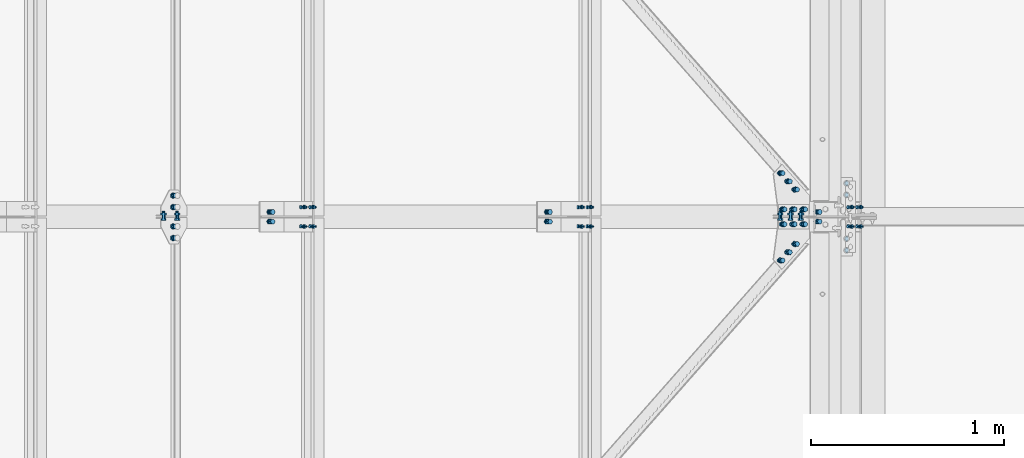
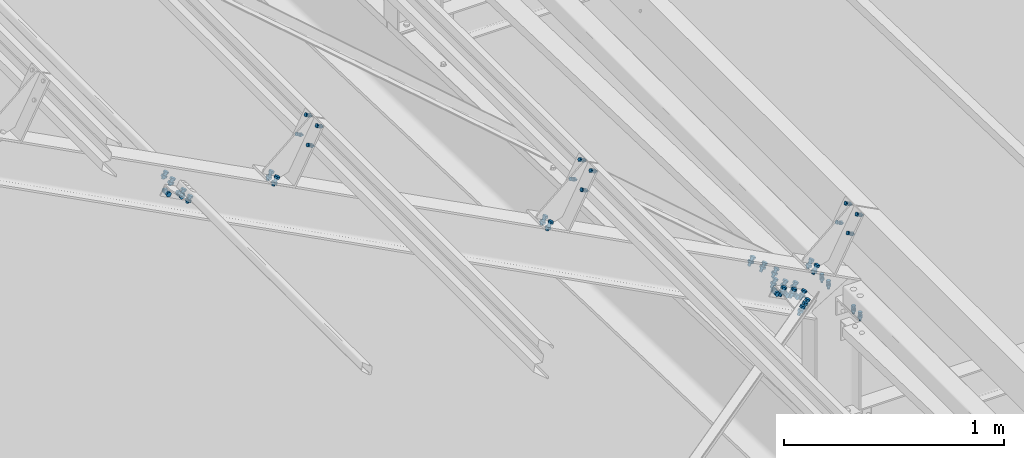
# One storey, part 169 of 362: 19 mechanical fasteners.
"""IFC2X3 building model written with IfcOpenShell, lengths in millimetres."""

from ifc_helpers import new_model, si_unit, frame, frame_2d, origin_with_axes, origin_2d_with_axis, place, context, subcontext, project, spatial, polyline, circle_curve, parameter, trimmed, segment, composite_curve, circle, outline, extrude, source, transform, mapped, material, type_object, element, save


model = new_model("IFC2X3")

# Units and contexts
model_context = context("Model", 3, precision=1e-05, world=origin_with_axes())
body_context = subcontext(model_context, "Body", "Model", "MODEL_VIEW")
ifc_project = project(units=[si_unit("LENGTHUNIT", "METRE", prefix="MILLI"), si_unit("AREAUNIT", "SQUARE_METRE"), si_unit("VOLUMEUNIT", "CUBIC_METRE"), si_unit("MASSUNIT", "GRAM", prefix="KILO"), si_unit("TIMEUNIT", "SECOND"), si_unit("PLANEANGLEUNIT", "RADIAN"), si_unit("SOLIDANGLEUNIT", "STERADIAN"), si_unit("THERMODYNAMICTEMPERATUREUNIT", "DEGREE_CELSIUS"), si_unit("LUMINOUSINTENSITYUNIT", "LUMEN")], contexts=[model_context])

# Site, building, storey
site_placement = place(None, origin_with_axes())
site = spatial("IfcSite", under=ifc_project, at=site_placement, Name="Undefined", CompositionType="ELEMENT")
building_placement = place(site_placement, origin_with_axes())
building = spatial("IfcBuilding", under=site, at=building_placement, Name="Undefined", CompositionType="ELEMENT")
storey_placement = place(building_placement, origin_with_axes())
storey = spatial("IfcBuildingStorey", under=building, at=storey_placement, Name="Undefined", CompositionType="ELEMENT", Elevation=0.0)

# Mechanical fasteners
ifc_material_1 = material(Name="8.8-SB-ZINGUE")
mechanical_fastener_type = type_object("IfcMechanicalFastenerType", Name="Bolt assembly")
shared_shape_1 = source(origin_with_axes(), body_context, "Body", "SweptSolid", [
    extrude(circle(Radius=7.0, at=origin_2d_with_axis()), frame((0.0, -0.100011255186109, 0.0), z_axis=(0.0, 1.0, 0.0), x_axis=(1.0, 0.0, 0.0)), (0.0, 0.0, 1.0), 3.1),
    extrude(circle(Radius=7.0, at=origin_2d_with_axis()), frame((0.0, -9.9, 0.0), z_axis=(0.0, 1.0, 0.0), x_axis=(1.0, 0.0, 0.0)), (0.0, 0.0, 1.0), 10.0),
    extrude(outline(polyline([(10.39230484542, 0.0), (5.19615242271, 9.00000000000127), (-5.19615242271, 9.00000000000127), (-10.39230484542, 0.0), (-5.19615242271, -9.00000000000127), (5.19615242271, -9.00000000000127), (10.39230484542, 0.0)])), frame((0.0, -17.92, 0.0), z_axis=(0.0, 1.0, 0.0), x_axis=(1.0, 0.0, 0.0)), (0.0, 0.0, 1.0), 7.92),
    extrude(circle(Radius=6.0, at=origin_2d_with_axis()), frame((0.0, -10.0000010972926, 0.0), z_axis=(0.0, 1.0, 0.0), x_axis=(1.0, 0.0, 0.0)), (0.0, 0.0, 1.0), 30.0),
    extrude(outline(polyline([(11.5008173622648, 0.0), (5.7504086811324, 9.96000000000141), (-5.7504086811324, 9.96000000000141), (-11.5008173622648, 0.0), (-5.7504086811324, -9.96000000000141), (5.7504086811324, -9.96000000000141), (11.5008173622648, 0.0)])), frame((0.0, 3.00000067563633, 0.0), z_axis=(0.0, 1.0, 0.0), x_axis=(1.0, 0.0, 0.0)), (0.0, 0.0, 1.0), 7.92),
])
mechanical_fastener_1_placement = place(storey_placement, frame((19620.3252333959, 7649.9999403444, 8812.98460901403), z_axis=(0.0, 1.0, 0.0), x_axis=(0.463528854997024, 6.99999093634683e-09, 0.886081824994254)))
element("IfcMechanicalFastener", 1, at=mechanical_fastener_1_placement, inside=storey, type_object=mechanical_fastener_type, material=ifc_material_1, Name="Bolt assembly", NominalDiameter=12.0, NominalLength=30.0, context=body_context, shape_type="MappedRepresentation", body=[
    mapped(shared_shape_1, transform((0.0, 0.0, 0.0))),
    mapped(shared_shape_1, transform((99.9999999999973, -1.63709046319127e-11, 7.73070496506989e-12))),
])
shared_shape_2 = source(origin_with_axes(), body_context, "Body", "SweptSolid", [
    extrude(circle(Radius=7.0, at=origin_2d_with_axis()), frame((0.0, -0.10007666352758, 0.0), z_axis=(0.0, 1.0, 0.0), x_axis=(1.0, 0.0, 0.0)), (0.0, 0.0, 1.0), 3.1),
    extrude(circle(Radius=7.0, at=origin_2d_with_axis()), frame((0.0, -9.9, 0.0), z_axis=(0.0, 1.0, 0.0), x_axis=(1.0, 0.0, 0.0)), (0.0, 0.0, 1.0), 10.0),
    extrude(outline(polyline([(10.39230484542, 0.0), (5.19615242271, 9.00000000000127), (-5.19615242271, 9.00000000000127), (-10.39230484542, 0.0), (-5.19615242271, -9.00000000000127), (5.19615242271, -9.00000000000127), (10.39230484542, 0.0)])), frame((0.0, -17.92, 0.0), z_axis=(0.0, 1.0, 0.0), x_axis=(1.0, 0.0, 0.0)), (0.0, 0.0, 1.0), 7.92),
    extrude(circle(Radius=6.0, at=origin_2d_with_axis()), frame((0.0, -10.0000010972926, 0.0), z_axis=(0.0, 1.0, 0.0), x_axis=(1.0, 0.0, 0.0)), (0.0, 0.0, 1.0), 30.0),
    extrude(outline(polyline([(11.5008173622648, 0.0), (5.7504086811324, 9.96000000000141), (-5.7504086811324, 9.96000000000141), (-11.5008173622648, 0.0), (-5.7504086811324, -9.96000000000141), (5.7504086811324, -9.96000000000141), (11.5008173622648, 0.0)])), frame((0.0, 3.00000067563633, 0.0), z_axis=(0.0, 1.0, 0.0), x_axis=(1.0, 0.0, 0.0)), (0.0, 0.0, 1.0), 7.92),
])
mechanical_fastener_2_placement = place(storey_placement, frame((19620.3252333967, 7550.0000596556, 8812.98460901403), z_axis=(0.0, 1.0, 0.0), x_axis=(0.463528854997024, 6.99999093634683e-09, 0.886081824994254)))
element("IfcMechanicalFastener", 2, at=mechanical_fastener_2_placement, inside=storey, type_object=mechanical_fastener_type, material=ifc_material_1, Name="Bolt assembly", NominalDiameter=12.0, NominalLength=30.0, context=body_context, shape_type="MappedRepresentation", body=[
    mapped(shared_shape_2, transform((0.0, 0.0, 0.0))),
    mapped(shared_shape_2, transform((99.9999999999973, -1.63709046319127e-11, 7.73070496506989e-12))),
])
ifc_material_2 = material(Name="#_SB-8.8-ZINGUE")
shared_shape_3 = source(origin_with_axes(), body_context, "Body", "SweptSolid", [
    extrude(circle(Radius=9.0, at=origin_2d_with_axis()), frame((0.0, -5.8999542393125, 0.0), z_axis=(0.0, 1.0, 0.0), x_axis=(1.0, 0.0, 0.0)), (0.0, 0.0, 1.0), 6.0),
    extrude(circle(Radius=9.0, at=origin_2d_with_axis()), frame((0.0, -0.100011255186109, 0.0), z_axis=(0.0, 1.0, 0.0), x_axis=(1.0, 0.0, 0.0)), (0.0, 0.0, 1.0), 6.1),
    extrude(outline(polyline([(13.85640646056, 0.0), (6.92820323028, 12.0000000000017), (-6.92820323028, 12.0000000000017), (-13.85640646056, 0.0), (-6.92820323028, -12.0000000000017), (6.92820323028, -12.0000000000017), (13.85640646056, 0.0)])), frame((0.0, -16.5599735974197, 0.0), z_axis=(0.0, 1.0, 0.0), x_axis=(1.0, 0.0, 0.0)), (0.0, 0.0, 1.0), 10.56),
    extrude(circle(Radius=8.0, at=origin_2d_with_axis()), frame((0.0, -5.9999542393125, 0.0), z_axis=(0.0, 1.0, 0.0), x_axis=(1.0, 0.0, 0.0)), (0.0, 0.0, 1.0), 40.0),
    extrude(outline(polyline([(15.3344231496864, 0.0), (7.6672115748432, 13.2800000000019), (-7.6672115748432, 13.2800000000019), (-15.3344231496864, 0.0), (-7.6672115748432, -13.2800000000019), (7.6672115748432, -13.2800000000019), (15.3344231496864, 0.0)])), frame((0.0, 6.0, 0.0), z_axis=(0.0, 1.0, 0.0), x_axis=(1.0, 0.0, 0.0)), (0.0, 0.0, 1.0), 10.56),
])
for number, where, z_axis, x_axis, name in (
    (3, (19337.2313438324, 7740.99059110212, 8588.65078875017), (-0.628485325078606, -0.704921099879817, 0.32877414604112), (-0.624617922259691, 0.70928572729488, 0.326750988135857), "Bolt assembly"),
    (4, (19337.2315168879, 7459.00960462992, 8588.65070043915), (0.628485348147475, -0.704921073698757, -0.328774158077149), (-0.624617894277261, -0.709285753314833, 0.326750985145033), "Bolt assembly"),
):
    element("IfcMechanicalFastener", number, at=place(storey_placement, frame(where, z_axis=z_axis, x_axis=x_axis)), inside=storey, type_object=mechanical_fastener_type, material=ifc_material_2, Name=name, NominalDiameter=16.0, NominalLength=40.0, context=body_context, shape_type="MappedRepresentation", body=[
        mapped(shared_shape_3, transform((0.0, 0.0, 0.0))),
        mapped(shared_shape_3, transform((60.0, 0.0, 0.0))),
        mapped(shared_shape_3, transform((120.0, 0.0, 0.0))),
    ])
shared_shape_4 = source(origin_with_axes(), body_context, "Body", "SweptSolid", [
    extrude(circle(Radius=9.0, at=origin_2d_with_axis()), frame((0.0, 0.1, 0.0), z_axis=(0.0, 1.0, 0.0), x_axis=(1.0, 0.0, 0.0)), (0.0, 0.0, 1.0), 6.0),
    extrude(circle(Radius=9.0, at=origin_2d_with_axis()), frame((0.0, 5.90002706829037, 0.0), z_axis=(0.0, 1.0, 0.0), x_axis=(1.0, 0.0, 0.0)), (0.0, 0.0, 1.0), 6.1),
    extrude(outline(polyline([(13.85640646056, 0.0), (6.92820323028, 12.0000000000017), (-6.92820323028, 12.0000000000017), (-13.85640646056, 0.0), (-6.92820323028, -12.0000000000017), (6.92820323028, -12.0000000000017), (13.85640646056, 0.0)])), frame((0.0, -10.5600019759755, 0.0), z_axis=(0.0, 1.0, 0.0), x_axis=(1.0, 0.0, 0.0)), (0.0, 0.0, 1.0), 10.56),
    extrude(circle(Radius=8.0, at=origin_2d_with_axis()), frame((0.0, 0.0, 0.0), z_axis=(0.0, 1.0, 0.0), x_axis=(1.0, 0.0, 0.0)), (0.0, 0.0, 1.0), 40.0),
    extrude(outline(polyline([(15.3344231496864, 0.0), (7.6672115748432, 13.2800000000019), (-7.6672115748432, 13.2800000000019), (-15.3344231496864, 0.0), (-7.6672115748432, -13.2800000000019), (7.6672115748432, -13.2800000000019), (15.3344231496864, 0.0)])), frame((0.0, 12.0000270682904, 0.0), z_axis=(0.0, 1.0, 0.0), x_axis=(1.0, 0.0, 0.0)), (0.0, 0.0, 1.0), 10.56),
])
for number, where, z_axis, x_axis, name in (
    (5, (19328.4795202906, 7561.50029877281, 8593.22905686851), (-0.886082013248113, 9.38091927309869e-07, 0.463528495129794), (8.27999962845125e-07, 0.99999999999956, -4.4099997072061e-07), "Bolt assembly"),
    (6, (19328.479519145, 7638.49989992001, 8593.2290568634), (0.886082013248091, 9.63788348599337e-07, -0.463528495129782), (8.56999987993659e-07, -0.999999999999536, -4.41000016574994e-07), "Bolt assembly"),
):
    element("IfcMechanicalFastener", number, at=place(storey_placement, frame(where, z_axis=z_axis, x_axis=x_axis)), inside=storey, type_object=mechanical_fastener_type, material=ifc_material_2, Name=name, NominalDiameter=16.0, NominalLength=40.0, context=body_context, shape_type="MappedRepresentation", body=[
        mapped(shared_shape_4, transform((0.0, 0.0, -60.0))),
        mapped(shared_shape_4, transform((0.0, 0.0, 0.0))),
        mapped(shared_shape_4, transform((0.0, 0.0, 60.0))),
    ])
shared_shape_5 = source(origin_with_axes(), body_context, "Body", "SweptSolid", [
    extrude(circle(Radius=7.0, at=origin_2d_with_axis()), frame((0.0, -0.100011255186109, 0.0), z_axis=(0.0, 1.0, 0.0), x_axis=(1.0, 0.0, 0.0)), (0.0, 0.0, 1.0), 1.6),
    extrude(circle(Radius=7.0, at=origin_2d_with_axis()), frame((0.0, -9.9, 0.0), z_axis=(0.0, 1.0, 0.0), x_axis=(1.0, 0.0, 0.0)), (0.0, 0.0, 1.0), 10.0),
    extrude(outline(polyline([(10.39230484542, 0.0), (5.19615242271, 9.00000000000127), (-5.19615242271, 9.00000000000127), (-10.39230484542, 0.0), (-5.19615242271, -9.00000000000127), (5.19615242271, -9.00000000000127), (10.39230484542, 0.0)])), frame((0.0, -17.92, 0.0), z_axis=(0.0, 1.0, 0.0), x_axis=(1.0, 0.0, 0.0)), (0.0, 0.0, 1.0), 7.92),
    extrude(circle(Radius=6.0, at=origin_2d_with_axis()), frame((0.0, -10.0000010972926, 0.0), z_axis=(0.0, 1.0, 0.0), x_axis=(1.0, 0.0, 0.0)), (0.0, 0.0, 1.0), 30.0),
    extrude(outline(polyline([(11.5008173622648, 0.0), (5.7504086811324, 9.96000000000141), (-5.7504086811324, 9.96000000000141), (-11.5008173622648, 0.0), (-5.7504086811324, -9.96000000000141), (5.7504086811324, -9.96000000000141), (11.5008173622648, 0.0)])), frame((0.0, 1.50001896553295, 0.0), z_axis=(0.0, 1.0, 0.0), x_axis=(1.0, 0.0, 0.0)), (0.0, 0.0, 1.0), 7.92),
])
for number, where, z_axis, x_axis, name in (
    (7, (16785.1352902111, 7649.9999403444, 10295.0043403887), (0.0, 1.0, 0.0), (0.463528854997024, 6.99999093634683e-09, 0.886081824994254), "Bolt assembly"),
    (8, (18222.4353554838, 7649.9999403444, 9543.12203833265), (0.0, 1.0, 0.0), (0.463528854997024, 6.99999093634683e-09, 0.886081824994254), "Bolt assembly"),
):
    element("IfcMechanicalFastener", number, at=place(storey_placement, frame(where, z_axis=z_axis, x_axis=x_axis)), inside=storey, type_object=mechanical_fastener_type, material=ifc_material_1, Name=name, NominalDiameter=12.0, NominalLength=30.0, context=body_context, shape_type="MappedRepresentation", body=[
        mapped(shared_shape_5, transform((0.0, 0.0, 0.0))),
        mapped(shared_shape_5, transform((102.00000000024, -2.51020537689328e-10, 0.0))),
    ])
shared_shape_6 = source(origin_with_axes(), body_context, "Body", "SweptSolid", [
    extrude(circle(Radius=7.0, at=origin_2d_with_axis()), frame((0.0, -0.10007666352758, 0.0), z_axis=(0.0, 1.0, 0.0), x_axis=(1.0, 0.0, 0.0)), (0.0, 0.0, 1.0), 1.6),
    extrude(circle(Radius=7.0, at=origin_2d_with_axis()), frame((0.0, -9.9, 0.0), z_axis=(0.0, 1.0, 0.0), x_axis=(1.0, 0.0, 0.0)), (0.0, 0.0, 1.0), 10.0),
    extrude(outline(polyline([(10.39230484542, 0.0), (5.19615242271, 9.00000000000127), (-5.19615242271, 9.00000000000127), (-10.39230484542, 0.0), (-5.19615242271, -9.00000000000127), (5.19615242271, -9.00000000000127), (10.39230484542, 0.0)])), frame((0.0, -17.92, 0.0), z_axis=(0.0, 1.0, 0.0), x_axis=(1.0, 0.0, 0.0)), (0.0, 0.0, 1.0), 7.92),
    extrude(circle(Radius=6.0, at=origin_2d_with_axis()), frame((0.0, -10.0000010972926, 0.0), z_axis=(0.0, 1.0, 0.0), x_axis=(1.0, 0.0, 0.0)), (0.0, 0.0, 1.0), 30.0),
    extrude(outline(polyline([(11.5008173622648, 0.0), (5.7504086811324, 9.96000000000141), (-5.7504086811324, 9.96000000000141), (-11.5008173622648, 0.0), (-5.7504086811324, -9.96000000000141), (5.7504086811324, -9.96000000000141), (11.5008173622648, 0.0)])), frame((0.0, 1.50001896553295, 0.0), z_axis=(0.0, 1.0, 0.0), x_axis=(1.0, 0.0, 0.0)), (0.0, 0.0, 1.0), 7.92),
])
for number, where, z_axis, x_axis, name in (
    (9, (16785.1352902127, 7550.0000596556, 10295.0043403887), (0.0, 1.0, 0.0), (0.463528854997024, 6.99999093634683e-09, 0.886081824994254), "Bolt assembly"),
    (10, (18222.4353554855, 7550.0000596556, 9543.12203833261), (0.0, 1.0, 0.0), (0.463528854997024, 6.99999093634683e-09, 0.886081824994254), "Bolt assembly"),
):
    element("IfcMechanicalFastener", number, at=place(storey_placement, frame(where, z_axis=z_axis, x_axis=x_axis)), inside=storey, type_object=mechanical_fastener_type, material=ifc_material_1, Name=name, NominalDiameter=12.0, NominalLength=30.0, context=body_context, shape_type="MappedRepresentation", body=[
        mapped(shared_shape_6, transform((0.0, 0.0, 0.0))),
        mapped(shared_shape_6, transform((102.00000000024, -2.51020537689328e-10, 0.0))),
    ])
shared_shape_7 = source(origin_with_axes(), body_context, "Body", "SweptSolid", [
    extrude(circle(Radius=9.0, at=origin_2d_with_axis()), frame((0.0, -0.0999426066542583, 0.0), z_axis=(0.0, 1.0, 0.0), x_axis=(1.0, 0.0, 0.0)), (0.0, 0.0, 1.0), 9.9),
    extrude(circle(Radius=9.0, at=origin_2d_with_axis()), frame((0.0, -9.9, 0.0), z_axis=(0.0, 1.0, 0.0), x_axis=(1.0, 0.0, 0.0)), (0.0, 0.0, 1.0), 10.0),
    extrude(outline(polyline([(13.85640646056, 0.0), (6.92820323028, 12.0000000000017), (-6.92820323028, 12.0000000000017), (-13.85640646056, 0.0), (-6.92820323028, -12.0000000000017), (6.92820323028, -12.0000000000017), (13.85640646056, 0.0)])), frame((0.0, -20.5600000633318, 0.0), z_axis=(0.0, 1.0, 0.0), x_axis=(1.0, 0.0, 0.0)), (0.0, 0.0, 1.0), 10.56),
    extrude(circle(Radius=8.0, at=origin_2d_with_axis()), frame((0.0, -10.0000010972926, 0.0), z_axis=(0.0, 1.0, 0.0), x_axis=(1.0, 0.0, 0.0)), (0.0, 0.0, 1.0), 40.0),
    extrude(outline(polyline([(15.3344231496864, 0.0), (7.6672115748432, 13.2800000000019), (-7.6672115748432, 13.2800000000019), (-15.3344231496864, 0.0), (-7.6672115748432, -13.2800000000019), (7.6672115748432, -13.2800000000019), (15.3344231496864, 0.0)])), frame((0.0, 9.80008147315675, 0.0), z_axis=(0.0, 1.0, 0.0), x_axis=(1.0, 0.0, 0.0)), (0.0, 0.0, 1.0), 10.56),
])
mechanical_fastener_3_placement = place(storey_placement, frame((16617.371263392, 7600.00003751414, 10146.8954726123), z_axis=(0.0, 1.0, 0.0), x_axis=(0.886081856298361, 3.500000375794e-08, -0.463528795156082)))
element("IfcMechanicalFastener", 11, at=mechanical_fastener_3_placement, inside=storey, type_object=mechanical_fastener_type, material=ifc_material_1, Name="Bolt assembly", NominalDiameter=16.0, NominalLength=40.0, context=body_context, shape_type="MappedRepresentation", body=[
    mapped(shared_shape_7, transform((0.0, 0.0, -25.0))),
    mapped(shared_shape_7, transform((0.0, 0.0, 25.0))),
])
shared_shape_8 = source(origin_with_axes(), body_context, "Body", "SweptSolid", [
    extrude(circle(Radius=9.0, at=origin_2d_with_axis()), frame((0.0, -0.0998569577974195, 0.0), z_axis=(0.0, 1.0, 0.0), x_axis=(1.0, 0.0, 0.0)), (0.0, 0.0, 1.0), 9.9),
    extrude(circle(Radius=9.0, at=origin_2d_with_axis()), frame((0.0, -9.9, 0.0), z_axis=(0.0, 1.0, 0.0), x_axis=(1.0, 0.0, 0.0)), (0.0, 0.0, 1.0), 10.0),
    extrude(outline(polyline([(13.85640646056, 0.0), (6.92820323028, 12.0000000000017), (-6.92820323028, 12.0000000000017), (-13.85640646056, 0.0), (-6.92820323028, -12.0000000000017), (6.92820323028, -12.0000000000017), (13.85640646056, 0.0)])), frame((0.0, -20.5600000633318, 0.0), z_axis=(0.0, 1.0, 0.0), x_axis=(1.0, 0.0, 0.0)), (0.0, 0.0, 1.0), 10.56),
    extrude(circle(Radius=8.0, at=origin_2d_with_axis()), frame((0.0, -10.0000010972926, 0.0), z_axis=(0.0, 1.0, 0.0), x_axis=(1.0, 0.0, 0.0)), (0.0, 0.0, 1.0), 40.0),
    extrude(outline(polyline([(15.3344231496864, 0.0), (7.6672115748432, 13.2800000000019), (-7.6672115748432, 13.2800000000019), (-15.3344231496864, 0.0), (-7.6672115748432, -13.2800000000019), (7.6672115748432, -13.2800000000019), (15.3344231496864, 0.0)])), frame((0.0, 9.80017144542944, 0.0), z_axis=(0.0, 1.0, 0.0), x_axis=(1.0, 0.0, 0.0)), (0.0, 0.0, 1.0), 10.56),
])
mechanical_fastener_4_placement = place(storey_placement, frame((18054.6713286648, 7600.00003751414, 9395.01317055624), z_axis=(0.0, 1.0, 0.0), x_axis=(0.886081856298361, 3.500000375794e-08, -0.463528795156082)))
element("IfcMechanicalFastener", 12, at=mechanical_fastener_4_placement, inside=storey, type_object=mechanical_fastener_type, material=ifc_material_1, Name="Bolt assembly", NominalDiameter=16.0, NominalLength=40.0, context=body_context, shape_type="MappedRepresentation", body=[
    mapped(shared_shape_8, transform((0.0, 0.0, -25.0))),
    mapped(shared_shape_8, transform((0.0, 0.0, 25.0))),
])
shared_shape_9 = source(origin_with_axes(), body_context, "Body", "SweptSolid", [
    extrude(circle(Radius=9.0, at=origin_2d_with_axis()), frame((0.0, -0.0997388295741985, 0.0), z_axis=(0.0, 1.0, 0.0), x_axis=(1.0, 0.0, 0.0)), (0.0, 0.0, 1.0), 9.9),
    extrude(circle(Radius=9.0, at=origin_2d_with_axis()), frame((0.0, -9.9, 0.0), z_axis=(0.0, 1.0, 0.0), x_axis=(1.0, 0.0, 0.0)), (0.0, 0.0, 1.0), 10.0),
    extrude(outline(polyline([(13.85640646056, 0.0), (6.92820323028, 12.0000000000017), (-6.92820323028, 12.0000000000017), (-13.85640646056, 0.0), (-6.92820323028, -12.0000000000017), (6.92820323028, -12.0000000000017), (13.85640646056, 0.0)])), frame((0.0, -20.5600000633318, 0.0), z_axis=(0.0, 1.0, 0.0), x_axis=(1.0, 0.0, 0.0)), (0.0, 0.0, 1.0), 10.56),
    extrude(circle(Radius=8.0, at=origin_2d_with_axis()), frame((0.0, -10.0000010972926, 0.0), z_axis=(0.0, 1.0, 0.0), x_axis=(1.0, 0.0, 0.0)), (0.0, 0.0, 1.0), 40.0),
    extrude(outline(polyline([(15.3344231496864, 0.0), (7.6672115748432, 13.2800000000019), (-7.6672115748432, 13.2800000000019), (-15.3344231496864, 0.0), (-7.6672115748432, -13.2800000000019), (7.6672115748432, -13.2800000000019), (15.3344231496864, 0.0)])), frame((0.0, 9.80025892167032, 0.0), z_axis=(0.0, 1.0, 0.0), x_axis=(1.0, 0.0, 0.0)), (0.0, 0.0, 1.0), 10.56),
])
mechanical_fastener_5_placement = place(storey_placement, frame((19452.0976781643, 7600.00003751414, 8663.98965918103), z_axis=(0.0, 1.0, 0.0), x_axis=(0.886081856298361, 3.500000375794e-08, -0.463528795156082)))
element("IfcMechanicalFastener", 13, at=mechanical_fastener_5_placement, inside=storey, type_object=mechanical_fastener_type, material=ifc_material_1, Name="Bolt assembly", NominalDiameter=16.0, NominalLength=40.0, context=body_context, shape_type="MappedRepresentation", body=[
    mapped(shared_shape_9, transform((0.0, 0.0, -25.0))),
    mapped(shared_shape_9, transform((0.0, 0.0, 25.0))),
])
shared_shape_10 = source(origin_with_axes(), body_context, "Body", "SweptSolid", [
    extrude(circle(Radius=9.0, at=origin_2d_with_axis()), frame((0.0, -3.89999843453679, 0.0), z_axis=(0.0, 1.0, 0.0), x_axis=(1.0, 0.0, 0.0)), (0.0, 0.0, 1.0), 4.0),
    extrude(circle(Radius=9.0, at=origin_2d_with_axis()), frame((0.0, -0.10007666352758, 0.0), z_axis=(0.0, 1.0, 0.0), x_axis=(1.0, 0.0, 0.0)), (0.0, 0.0, 1.0), 6.1),
    extrude(outline(polyline([(13.85640646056, 0.0), (6.92820323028, 12.0000000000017), (-6.92820323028, 12.0000000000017), (-13.85640646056, 0.0), (-6.92820323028, -12.0000000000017), (6.92820323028, -12.0000000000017), (13.85640646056, 0.0)])), frame((0.0, -14.560000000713, 0.0), z_axis=(0.0, 1.0, 0.0), x_axis=(1.0, 0.0, 0.0)), (0.0, 0.0, 1.0), 10.56),
    extrude(circle(Radius=8.0, at=origin_2d_with_axis()), frame((0.0, -3.99999923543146, 0.0), z_axis=(0.0, 1.0, 0.0), x_axis=(1.0, 0.0, 0.0)), (0.0, 0.0, 1.0), 30.0),
    extrude(outline(polyline([(15.3344231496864, 0.0), (7.6672115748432, 13.2800000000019), (-7.6672115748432, 13.2800000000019), (-15.3344231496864, 0.0), (-7.6672115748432, -13.2800000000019), (7.6672115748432, -13.2800000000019), (15.3344231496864, 0.0)])), frame((0.0, 6.0, 0.0), z_axis=(0.0, 1.0, 0.0), x_axis=(1.0, 0.0, 0.0)), (0.0, 0.0, 1.0), 10.56),
])
for number, where, z_axis, x_axis, name in (
    (14, (16115.0000117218, 7650.00010306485, 10274.2689129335), (-0.886081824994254, 0.0, 0.463528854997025), (0.0, 1.0, 0.0), "Bolt assembly"),
    (15, (16115.0000132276, 7550.00000001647, 10274.2689129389), (0.886081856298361, 3.500000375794e-08, -0.463528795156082), (0.0, -1.0, 0.0), "Bolt assembly"),
):
    element("IfcMechanicalFastener", number, at=place(storey_placement, frame(where, z_axis=z_axis, x_axis=x_axis)), inside=storey, type_object=mechanical_fastener_type, material=ifc_material_2, Name=name, NominalDiameter=16.0, NominalLength=30.0, context=body_context, shape_type="MappedRepresentation", body=[
        mapped(shared_shape_10, transform((0.0, 0.0, 0.0))),
        mapped(shared_shape_10, transform((60.0, 0.0, 0.0))),
    ])
shared_shape_11 = source(origin_with_axes(), body_context, "Body", "SweptSolid", [
    extrude(circle(Radius=9.0, at=origin_2d_with_axis()), frame((0.0, -3.10006822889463, 0.0), z_axis=(0.0, 1.0, 0.0), x_axis=(1.0, 0.0, 0.0)), (0.0, 0.0, 1.0), 6.2),
    extrude(circle(Radius=9.0, at=origin_2d_with_axis()), frame((0.0, 3.40000111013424, 0.0), z_axis=(0.0, 1.0, 0.0), x_axis=(1.0, 0.0, 0.0)), (0.0, 0.0, 1.0), 6.1),
    extrude(circle(Radius=9.0, at=origin_2d_with_axis()), frame((0.0, -9.40005437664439, 0.0), z_axis=(0.0, 1.0, 0.0), x_axis=(1.0, 0.0, 0.0)), (0.0, 0.0, 1.0), 6.0),
    extrude(outline(polyline([(13.85640646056, 0.0), (6.92820323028, 12.0000000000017), (-6.92820323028, 12.0000000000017), (-13.85640646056, 0.0), (-6.92820323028, -12.0000000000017), (6.92820323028, -12.0000000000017), (13.85640646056, 0.0)])), frame((0.0, -20.0600543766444, 0.0), z_axis=(0.0, 1.0, 0.0), x_axis=(1.0, 0.0, 0.0)), (0.0, 0.0, 1.0), 10.56),
    extrude(circle(Radius=8.0, at=origin_2d_with_axis()), frame((0.0, -9.50005437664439, 0.0), z_axis=(0.0, 1.0, 0.0), x_axis=(1.0, 0.0, 0.0)), (0.0, 0.0, 1.0), 40.0),
    extrude(outline(polyline([(15.3344231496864, 0.0), (7.6672115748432, 13.2800000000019), (-7.6672115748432, 13.2800000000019), (-15.3344231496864, 0.0), (-7.6672115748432, -13.2800000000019), (7.6672115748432, -13.2800000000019), (15.3344231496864, 0.0)])), frame((0.0, 9.50000815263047, 0.0), z_axis=(0.0, 1.0, 0.0), x_axis=(1.0, 0.0, 0.0)), (0.0, 0.0, 1.0), 10.56),
])
mechanical_fastener_6_placement = place(storey_placement, frame((16095.9919870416, 7600.00005437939, 10237.9412688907), z_axis=(-0.886081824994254, 0.0, 0.463528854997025), x_axis=(0.463528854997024, 6.99999093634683e-09, 0.886081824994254)))
element("IfcMechanicalFastener", 16, at=mechanical_fastener_6_placement, inside=storey, type_object=mechanical_fastener_type, material=ifc_material_2, Name="Bolt assembly", NominalDiameter=16.0, NominalLength=40.0, context=body_context, shape_type="MappedRepresentation", body=[
    mapped(shared_shape_11, transform((0.0, 0.0, 40.0))),
    mapped(shared_shape_11, transform((0.0, 0.0, -40.0))),
])
shared_shape_12 = source(origin_with_axes(), body_context, "Body", "SweptSolid", [
    extrude(circle(Radius=9.0, at=origin_2d_with_axis()), frame((0.0, -3.10019889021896, 0.0), z_axis=(0.0, 1.0, 0.0), x_axis=(1.0, 0.0, 0.0)), (0.0, 0.0, 1.0), 6.2),
    extrude(circle(Radius=9.0, at=origin_2d_with_axis()), frame((0.0, 3.39970087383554, 0.0), z_axis=(0.0, 1.0, 0.0), x_axis=(1.0, 0.0, 0.0)), (0.0, 0.0, 1.0), 6.1),
    extrude(circle(Radius=9.0, at=origin_2d_with_axis()), frame((0.0, -9.39989811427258, 0.0), z_axis=(0.0, 1.0, 0.0), x_axis=(1.0, 0.0, 0.0)), (0.0, 0.0, 1.0), 6.0),
    extrude(outline(polyline([(13.85640646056, 0.0), (6.92820323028, 12.0000000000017), (-6.92820323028, 12.0000000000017), (-13.85640646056, 0.0), (-6.92820323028, -12.0000000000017), (6.92820323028, -12.0000000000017), (13.85640646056, 0.0)])), frame((0.0, -20.0598981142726, 0.0), z_axis=(0.0, 1.0, 0.0), x_axis=(1.0, 0.0, 0.0)), (0.0, 0.0, 1.0), 10.56),
    extrude(circle(Radius=8.0, at=origin_2d_with_axis()), frame((0.0, -9.49989811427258, 0.0), z_axis=(0.0, 1.0, 0.0), x_axis=(1.0, 0.0, 0.0)), (0.0, 0.0, 1.0), 40.0),
    extrude(outline(polyline([(15.3344231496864, 0.0), (7.6672115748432, 13.2800000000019), (-7.6672115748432, 13.2800000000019), (-15.3344231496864, 0.0), (-7.6672115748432, -13.2800000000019), (7.6672115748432, -13.2800000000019), (15.3344231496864, 0.0)])), frame((0.0, 9.49970087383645, 0.0), z_axis=(0.0, 1.0, 0.0), x_axis=(1.0, 0.0, 0.0)), (0.0, 0.0, 1.0), 10.56),
])
mechanical_fastener_7_placement = place(storey_placement, frame((19309.474816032, 7600.00019898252, 8556.89970541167), z_axis=(-0.886081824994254, 0.0, 0.463528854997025), x_axis=(0.463528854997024, 6.99999093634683e-09, 0.886081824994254)))
element("IfcMechanicalFastener", 17, at=mechanical_fastener_7_placement, inside=storey, type_object=mechanical_fastener_type, material=ifc_material_2, Name="Bolt assembly", NominalDiameter=16.0, NominalLength=40.0, context=body_context, shape_type="MappedRepresentation", body=[
    mapped(shared_shape_12, transform((0.0, 0.0, -60.0))),
    mapped(shared_shape_12, transform((0.0, 0.0, 0.0))),
    mapped(shared_shape_12, transform((0.0, 0.0, 60.0))),
])
shared_shape_13 = source(origin_with_axes(), body_context, "Body", "SweptSolid", [
    extrude(circle(Radius=7.0, at=origin_2d_with_axis()), frame((0.0, -3.89999843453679, 0.0), z_axis=(0.0, 1.0, 0.0), x_axis=(1.0, 0.0, 0.0)), (0.0, 0.0, 1.0), 4.0),
    extrude(outline(composite_curve([segment(polyline([(-7.0, 7.0), (7.0, 7.0)]), True, "CONTINUOUS"), segment(trimmed(circle_curve(frame_2d((7.0, 0.0), x_axis=(0.0, 1.0)), 7.0), [parameter(0.0)], [parameter(3.14159265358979)], False, "PARAMETER"), True, "CONTINUOUS"), segment(polyline([(7.0, -7.0), (-7.0, -7.0)]), True, "CONTINUOUS"), segment(trimmed(circle_curve(frame_2d((-7.0, 0.0), x_axis=(0.0, -1.0)), 7.0), [parameter(0.0)], [parameter(3.14159265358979)], False, "PARAMETER"), True, "DISCONTINUOUS")], self_intersect=False)), frame((0.0, -0.100011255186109, 0.0), z_axis=(0.0, 1.0, 0.0), x_axis=(1.0, 0.0, 0.0)), (0.0, 0.0, 1.0), 10.1),
    extrude(outline(polyline([(10.39230484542, 0.0), (5.19615242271, 9.00000000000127), (-5.19615242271, 9.00000000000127), (-10.39230484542, 0.0), (-5.19615242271, -9.00000000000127), (5.19615242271, -9.00000000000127), (10.39230484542, 0.0)])), frame((0.0, -11.9199984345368, 0.0), z_axis=(0.0, 1.0, 0.0), x_axis=(1.0, 0.0, 0.0)), (0.0, 0.0, 1.0), 7.92),
    extrude(circle(Radius=6.0, at=origin_2d_with_axis()), frame((0.0, -3.99999923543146, 0.0), z_axis=(0.0, 1.0, 0.0), x_axis=(1.0, 0.0, 0.0)), (0.0, 0.0, 1.0), 40.0),
    extrude(circle(Radius=10.8, at=origin_2d_with_axis()), frame((0.0, 10.0000000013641, 0.0), z_axis=(0.0, 1.0, 0.0), x_axis=(1.0, 0.0, 0.0)), (0.0, 0.0, 1.0), 3.96),
    extrude(outline(polyline([(11.5008173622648, 0.0), (5.7504086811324, 9.96000000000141), (-5.7504086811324, 9.96000000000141), (-11.5008173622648, 0.0), (-5.7504086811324, -9.96000000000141), (5.7504086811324, -9.96000000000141), (11.5008173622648, 0.0)])), frame((0.0, 13.96, 0.0), z_axis=(0.0, 1.0, 0.0), x_axis=(1.0, 0.0, 0.0)), (0.0, 0.0, 1.0), 7.92),
])
mechanical_fastener_8_placement = place(storey_placement, frame((19599.9999999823, 7773.5, 8450.0), z_axis=(1.0, 0.0, 0.0), x_axis=(0.0, -1.0, 0.0)))
element("IfcMechanicalFastener", 18, at=mechanical_fastener_8_placement, inside=storey, type_object=mechanical_fastener_type, material=ifc_material_1, Name="Bolt assembly", NominalDiameter=12.0, NominalLength=40.0, context=body_context, shape_type="MappedRepresentation", body=[
    mapped(shared_shape_13, transform((0.0, 0.0, 0.0))),
    mapped(shared_shape_13, transform((60.0, 0.0, 0.0))),
])
shared_shape_14 = source(origin_with_axes(), body_context, "Body", "SweptSolid", [
    extrude(circle(Radius=7.0, at=origin_2d_with_axis()), frame((0.0, -3.89999843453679, 0.0), z_axis=(0.0, 1.0, 0.0), x_axis=(1.0, 0.0, 0.0)), (0.0, 0.0, 1.0), 4.0),
    extrude(outline(composite_curve([segment(polyline([(-7.0, 7.0), (7.0, 7.0)]), True, "CONTINUOUS"), segment(trimmed(circle_curve(frame_2d((7.0, 0.0), x_axis=(0.0, 1.0)), 7.0), [parameter(0.0)], [parameter(3.14159265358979)], False, "PARAMETER"), True, "CONTINUOUS"), segment(polyline([(7.0, -7.0), (-7.0, -7.0)]), True, "CONTINUOUS"), segment(trimmed(circle_curve(frame_2d((-7.0, 0.0), x_axis=(0.0, -1.0)), 7.0), [parameter(0.0)], [parameter(3.14159265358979)], False, "PARAMETER"), True, "DISCONTINUOUS")], self_intersect=False)), frame((0.0, -0.100011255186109, 0.0), z_axis=(0.0, 1.0, 0.0), x_axis=(1.0, 0.0, 0.0)), (0.0, 0.0, 1.0), 10.1),
    extrude(outline(polyline([(10.39230484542, 0.0), (5.19615242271, 9.00000000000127), (-5.19615242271, 9.00000000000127), (-10.39230484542, 0.0), (-5.19615242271, -9.00000000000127), (5.19615242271, -9.00000000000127), (10.39230484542, 0.0)])), frame((0.0, -11.9199984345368, 0.0), z_axis=(0.0, 1.0, 0.0), x_axis=(1.0, 0.0, 0.0)), (0.0, 0.0, 1.0), 7.92),
    extrude(circle(Radius=6.0, at=origin_2d_with_axis()), frame((0.0, -3.99999923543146, 0.0), z_axis=(0.0, 1.0, 0.0), x_axis=(1.0, 0.0, 0.0)), (0.0, 0.0, 1.0), 40.0),
    extrude(circle(Radius=10.8, at=origin_2d_with_axis()), frame((0.0, 10.0000000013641, 0.0), z_axis=(0.0, 1.0, 0.0), x_axis=(1.0, 0.0, 0.0)), (0.0, 0.0, 1.0), 3.96),
    extrude(outline(polyline([(11.5008173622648, 0.0), (5.7504086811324, 9.96000000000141), (-5.7504086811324, 9.96000000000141), (-11.5008173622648, 0.0), (-5.7504086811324, -9.96000000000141), (5.7504086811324, -9.96000000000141), (11.5008173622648, 0.0)])), frame((0.0, 13.96, 0.0), z_axis=(0.0, 1.0, 0.0), x_axis=(1.0, 0.0, 0.0)), (0.0, 0.0, 1.0), 7.92),
])
mechanical_fastener_9_placement = place(storey_placement, frame((19599.9999999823, 7426.5, 8450.0), z_axis=(-1.0, 0.0, 0.0), x_axis=(0.0, 1.0, 0.0)))
element("IfcMechanicalFastener", 19, at=mechanical_fastener_9_placement, inside=storey, type_object=mechanical_fastener_type, material=ifc_material_1, Name="Bolt assembly", NominalDiameter=12.0, NominalLength=40.0, context=body_context, shape_type="MappedRepresentation", body=[
    mapped(shared_shape_14, transform((0.0, 0.0, 0.0))),
    mapped(shared_shape_14, transform((60.0, 0.0, 0.0))),
])

save(model, "model.ifc")
